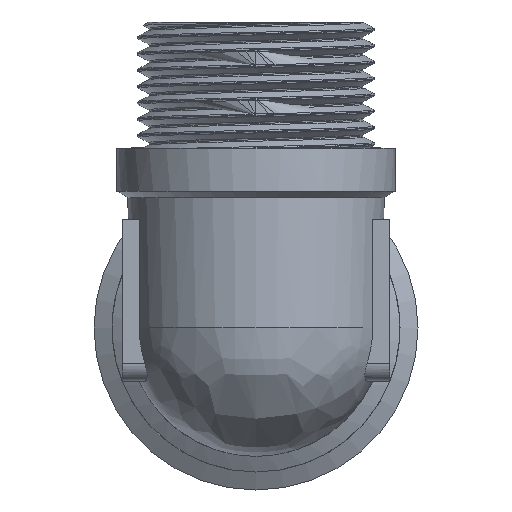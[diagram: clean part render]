
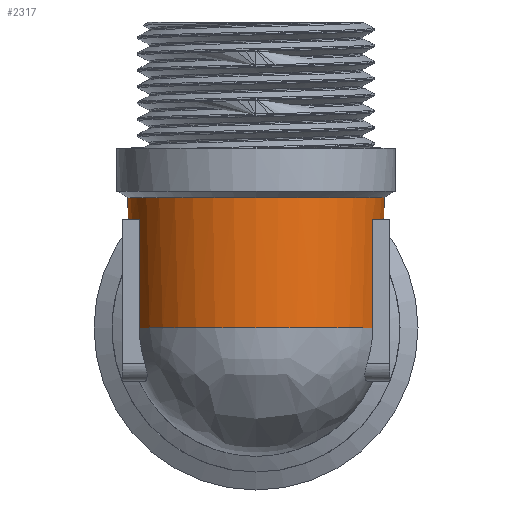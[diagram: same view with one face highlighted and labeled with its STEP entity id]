
A CAD part, front view. The second image highlights one B-rep face of the part: STEP entity #2317.
In plain terms, the highlighted cylindrical face has radius 14.25 mm (diameter 28.5 mm), a partial arc.
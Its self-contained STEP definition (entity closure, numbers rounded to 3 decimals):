
#36=ELLIPSE('',#2488,20.153,14.25);
#37=ELLIPSE('',#2493,20.153,14.25);
#92=B_SPLINE_CURVE_WITH_KNOTS('',3,(#3639,#3640,#3641,#3642,#3643,#3644),
 .UNSPECIFIED.,.F.,.F.,(4,2,4),(1.417,1.451,1.577),
 .UNSPECIFIED.);
#93=B_SPLINE_CURVE_WITH_KNOTS('',3,(#3647,#3648,#3649,#3650,#3651,#3652),
 .UNSPECIFIED.,.F.,.F.,(4,2,4),(2.256,2.382,2.416),
 .UNSPECIFIED.);
#218=FACE_OUTER_BOUND('',#349,.T.);
#349=EDGE_LOOP('',(#1616,#1617,#1618,#1619,#1620,#1621,#1622,#1623,#1624,
#1625,#1626,#1627,#1628,#1629));
#494=LINE('',#3662,#660);
#495=LINE('',#3665,#661);
#496=LINE('',#3667,#662);
#497=LINE('',#3671,#663);
#660=VECTOR('',#2762,10.);
#661=VECTOR('',#2765,10.);
#662=VECTOR('',#2766,10.);
#663=VECTOR('',#2769,10.);
#834=CIRCLE('',#2477,14.25);
#838=CIRCLE('',#2482,14.25);
#842=CIRCLE('',#2489,14.25);
#843=CIRCLE('',#2490,14.25);
#844=CIRCLE('',#2491,14.25);
#845=CIRCLE('',#2492,14.25);
#961=VERTEX_POINT('',#3501);
#962=VERTEX_POINT('',#3506);
#975=VERTEX_POINT('',#3626);
#976=VERTEX_POINT('',#3631);
#977=VERTEX_POINT('',#3638);
#978=VERTEX_POINT('',#3645);
#980=VERTEX_POINT('',#3657);
#981=VERTEX_POINT('',#3659);
#982=VERTEX_POINT('',#3661);
#983=VERTEX_POINT('',#3663);
#984=VERTEX_POINT('',#3666);
#985=VERTEX_POINT('',#3668);
#986=VERTEX_POINT('',#3670);
#987=VERTEX_POINT('',#3672);
#1216=EDGE_CURVE('',#962,#961,#834,.T.);
#1232=EDGE_CURVE('',#976,#975,#838,.T.);
#1234=EDGE_CURVE('',#977,#962,#92,.T.);
#1236=EDGE_CURVE('',#961,#978,#93,.T.);
#1239=EDGE_CURVE('',#980,#978,#36,.T.);
#1240=EDGE_CURVE('',#980,#981,#842,.T.);
#1241=EDGE_CURVE('',#981,#982,#494,.T.);
#1242=EDGE_CURVE('',#982,#983,#843,.T.);
#1243=EDGE_CURVE('',#983,#976,#495,.T.);
#1244=EDGE_CURVE('',#975,#984,#496,.T.);
#1245=EDGE_CURVE('',#984,#985,#844,.T.);
#1246=EDGE_CURVE('',#985,#986,#497,.T.);
#1247=EDGE_CURVE('',#986,#987,#845,.T.);
#1248=EDGE_CURVE('',#977,#987,#37,.T.);
#1616=ORIENTED_EDGE('',*,*,#1216,.T.);
#1617=ORIENTED_EDGE('',*,*,#1236,.T.);
#1618=ORIENTED_EDGE('',*,*,#1239,.F.);
#1619=ORIENTED_EDGE('',*,*,#1240,.T.);
#1620=ORIENTED_EDGE('',*,*,#1241,.T.);
#1621=ORIENTED_EDGE('',*,*,#1242,.T.);
#1622=ORIENTED_EDGE('',*,*,#1243,.T.);
#1623=ORIENTED_EDGE('',*,*,#1232,.T.);
#1624=ORIENTED_EDGE('',*,*,#1244,.T.);
#1625=ORIENTED_EDGE('',*,*,#1245,.T.);
#1626=ORIENTED_EDGE('',*,*,#1246,.T.);
#1627=ORIENTED_EDGE('',*,*,#1247,.T.);
#1628=ORIENTED_EDGE('',*,*,#1248,.F.);
#1629=ORIENTED_EDGE('',*,*,#1234,.T.);
#2276=CYLINDRICAL_SURFACE('',#2487,14.25);
#2317=ADVANCED_FACE('',(#218),#2276,.T.);
#2477=AXIS2_PLACEMENT_3D('',#3507,#2735,#2736);
#2482=AXIS2_PLACEMENT_3D('',#3632,#2746,#2747);
#2487=AXIS2_PLACEMENT_3D('',#3656,#2756,#2757);
#2488=AXIS2_PLACEMENT_3D('',#3658,#2758,#2759);
#2489=AXIS2_PLACEMENT_3D('',#3660,#2760,#2761);
#2490=AXIS2_PLACEMENT_3D('',#3664,#2763,#2764);
#2491=AXIS2_PLACEMENT_3D('',#3669,#2767,#2768);
#2492=AXIS2_PLACEMENT_3D('',#3673,#2770,#2771);
#2493=AXIS2_PLACEMENT_3D('',#3674,#2772,#2773);
#2735=DIRECTION('center_axis',(0.,0.,-1.));
#2736=DIRECTION('ref_axis',(-1.,0.,0.));
#2746=DIRECTION('center_axis',(0.,0.,1.));
#2747=DIRECTION('ref_axis',(-1.,0.,0.));
#2756=DIRECTION('center_axis',(0.,0.,1.));
#2757=DIRECTION('ref_axis',(0.,-1.,0.));
#2758=DIRECTION('center_axis',(0.,0.707,-0.707));
#2759=DIRECTION('ref_axis',(0.,-0.707,-0.707));
#2760=DIRECTION('center_axis',(0.,0.,1.));
#2761=DIRECTION('ref_axis',(-1.,0.,0.));
#2762=DIRECTION('',(0.,0.,1.));
#2763=DIRECTION('center_axis',(0.,0.,1.));
#2764=DIRECTION('ref_axis',(-1.,0.,0.));
#2765=DIRECTION('',(0.,0.,-1.));
#2766=DIRECTION('',(0.,0.,1.));
#2767=DIRECTION('center_axis',(0.,0.,1.));
#2768=DIRECTION('ref_axis',(-1.,0.,0.));
#2769=DIRECTION('',(0.,0.,-1.));
#2770=DIRECTION('center_axis',(0.,0.,1.));
#2771=DIRECTION('ref_axis',(-1.,0.,0.));
#2772=DIRECTION('center_axis',(0.,0.707,-0.707));
#2773=DIRECTION('ref_axis',(0.,-0.707,-0.707));
#3501=CARTESIAN_POINT('',(-3.312,-41.64,14.5));
#3506=CARTESIAN_POINT('',(3.312,-41.64,14.5));
#3507=CARTESIAN_POINT('Origin',(0.,-55.5,14.5));
#3626=CARTESIAN_POINT('',(12.959,-61.426,0.));
#3631=CARTESIAN_POINT('',(-12.959,-61.426,0.));
#3632=CARTESIAN_POINT('Origin',(0.,-55.5,0.));
#3638=CARTESIAN_POINT('',(4.562,-42.,13.5));
#3639=CARTESIAN_POINT('Ctrl Pts',(4.562,-42.,13.5));
#3640=CARTESIAN_POINT('Ctrl Pts',(4.483,-41.973,13.576));
#3641=CARTESIAN_POINT('Ctrl Pts',(4.403,-41.947,13.649));
#3642=CARTESIAN_POINT('Ctrl Pts',(4.017,-41.824,13.994));
#3643=CARTESIAN_POINT('Ctrl Pts',(3.678,-41.728,14.261));
#3644=CARTESIAN_POINT('Ctrl Pts',(3.312,-41.64,14.5));
#3645=CARTESIAN_POINT('',(-4.562,-42.,13.5));
#3647=CARTESIAN_POINT('Ctrl Pts',(-3.312,-41.64,14.5));
#3648=CARTESIAN_POINT('Ctrl Pts',(-3.678,-41.728,14.261));
#3649=CARTESIAN_POINT('Ctrl Pts',(-4.017,-41.824,13.994));
#3650=CARTESIAN_POINT('Ctrl Pts',(-4.403,-41.947,13.649));
#3651=CARTESIAN_POINT('Ctrl Pts',(-4.483,-41.973,13.576));
#3652=CARTESIAN_POINT('Ctrl Pts',(-4.562,-42.,13.5));
#3656=CARTESIAN_POINT('Origin',(0.,-55.5,0.));
#3657=CARTESIAN_POINT('',(-12.878,-49.4,6.1));
#3658=CARTESIAN_POINT('Origin',(0.,-55.5,0.));
#3659=CARTESIAN_POINT('',(-12.891,-49.426,6.1));
#3660=CARTESIAN_POINT('Origin',(0.,-55.5,6.1));
#3661=CARTESIAN_POINT('',(-12.891,-49.426,12.1));
#3662=CARTESIAN_POINT('',(-12.891,-49.426,0.));
#3663=CARTESIAN_POINT('',(-12.959,-61.426,12.1));
#3664=CARTESIAN_POINT('Origin',(0.,-55.5,12.1));
#3665=CARTESIAN_POINT('',(-12.959,-61.426,0.));
#3666=CARTESIAN_POINT('',(12.959,-61.426,12.1));
#3667=CARTESIAN_POINT('',(12.959,-61.426,0.));
#3668=CARTESIAN_POINT('',(12.891,-49.426,12.1));
#3669=CARTESIAN_POINT('Origin',(0.,-55.5,12.1));
#3670=CARTESIAN_POINT('',(12.891,-49.426,6.1));
#3671=CARTESIAN_POINT('',(12.891,-49.426,0.));
#3672=CARTESIAN_POINT('',(12.878,-49.4,6.1));
#3673=CARTESIAN_POINT('Origin',(0.,-55.5,6.1));
#3674=CARTESIAN_POINT('Origin',(0.,-55.5,0.));
